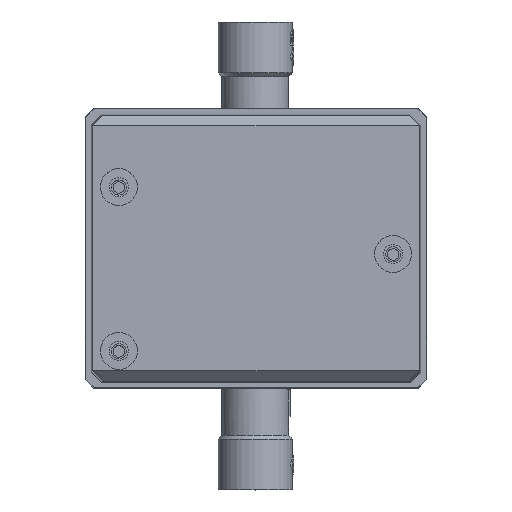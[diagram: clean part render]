
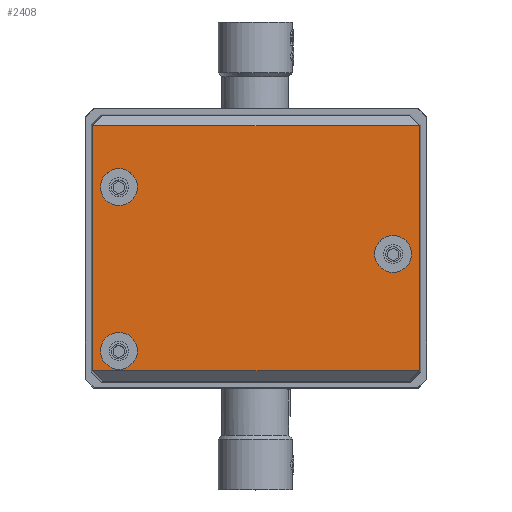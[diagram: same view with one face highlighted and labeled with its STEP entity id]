
A CAD part, top view. The second image highlights one B-rep face of the part: STEP entity #2408.
In plain terms, the highlighted planar face has unit normal (0, 0, 1).
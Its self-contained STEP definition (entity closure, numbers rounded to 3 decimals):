
#1491=FACE_BOUND('',#4747,.T.);
#1492=FACE_BOUND('',#4748,.T.);
#1493=FACE_BOUND('',#4749,.T.);
#1494=FACE_BOUND('',#4750,.T.);
#1710=CIRCLE('',#17207,5.5);
#1714=CIRCLE('',#17214,5.5);
#1718=CIRCLE('',#17221,5.5);
#2408=ADVANCED_FACE('',(#1491,#1492,#1493,#1494),#3371,.T.);
#3371=PLANE('',#17255);
#4747=EDGE_LOOP('',(#5979));
#4748=EDGE_LOOP('',(#5980));
#4749=EDGE_LOOP('',(#5981));
#4750=EDGE_LOOP('',(#5982,#5983,#5984,#5985,#5986,#5987,#5988,#5989));
#5979=ORIENTED_EDGE('',*,*,#12529,.T.);
#5980=ORIENTED_EDGE('',*,*,#12533,.T.);
#5981=ORIENTED_EDGE('',*,*,#12537,.T.);
#5982=ORIENTED_EDGE('',*,*,#12598,.F.);
#5983=ORIENTED_EDGE('',*,*,#12522,.T.);
#5984=ORIENTED_EDGE('',*,*,#12517,.T.);
#5985=ORIENTED_EDGE('',*,*,#12525,.T.);
#5986=ORIENTED_EDGE('',*,*,#12597,.F.);
#5987=ORIENTED_EDGE('',*,*,#12514,.T.);
#5988=ORIENTED_EDGE('',*,*,#12511,.T.);
#5989=ORIENTED_EDGE('',*,*,#12508,.T.);
#10841=VERTEX_POINT('',#23156);
#10845=VERTEX_POINT('',#23163);
#10846=VERTEX_POINT('',#23167);
#10850=VERTEX_POINT('',#23177);
#10852=VERTEX_POINT('',#23182);
#10853=VERTEX_POINT('',#23184);
#10857=VERTEX_POINT('',#23194);
#10858=VERTEX_POINT('',#23198);
#10862=VERTEX_POINT('',#23208);
#10866=VERTEX_POINT('',#23219);
#10870=VERTEX_POINT('',#23230);
#12508=EDGE_CURVE('',#10841,#10845,#15017,.T.);
#12511=EDGE_CURVE('',#10846,#10841,#15020,.T.);
#12514=EDGE_CURVE('',#10850,#10846,#15023,.T.);
#12517=EDGE_CURVE('',#10853,#10852,#15026,.T.);
#12522=EDGE_CURVE('',#10857,#10853,#15031,.T.);
#12525=EDGE_CURVE('',#10852,#10858,#15034,.T.);
#12529=EDGE_CURVE('',#10862,#10862,#1710,.T.);
#12533=EDGE_CURVE('',#10866,#10866,#1714,.T.);
#12537=EDGE_CURVE('',#10870,#10870,#1718,.T.);
#12597=EDGE_CURVE('',#10850,#10858,#15088,.T.);
#12598=EDGE_CURVE('',#10857,#10845,#15089,.T.);
#15017=LINE('',#23164,#16053);
#15020=LINE('',#23170,#16056);
#15023=LINE('',#23176,#16059);
#15026=LINE('',#23183,#16062);
#15031=LINE('',#23193,#16067);
#15034=LINE('',#23200,#16070);
#15088=LINE('',#23348,#16124);
#15089=LINE('',#23350,#16125);
#16053=VECTOR('',#18812,1.);
#16056=VECTOR('',#18817,1.);
#16059=VECTOR('',#18822,1.);
#16062=VECTOR('',#18827,1.);
#16067=VECTOR('',#18834,1.);
#16070=VECTOR('',#18839,1.);
#16124=VECTOR('',#18991,1.);
#16125=VECTOR('',#18994,1.);
#17207=AXIS2_PLACEMENT_3D('',#23207,#18846,#18847);
#17214=AXIS2_PLACEMENT_3D('',#23218,#18860,#18861);
#17221=AXIS2_PLACEMENT_3D('',#23229,#18874,#18875);
#17255=AXIS2_PLACEMENT_3D('',#23351,#18995,#18996);
#18812=DIRECTION('',(-0.707,-0.707,0.));
#18817=DIRECTION('',(-1.,0.,0.));
#18822=DIRECTION('',(-0.707,0.707,0.));
#18827=DIRECTION('',(1.,0.,0.));
#18834=DIRECTION('',(0.707,-0.707,0.));
#18839=DIRECTION('',(0.707,0.707,0.));
#18846=DIRECTION('',(0.,0.,-1.));
#18847=DIRECTION('',(1.,0.,0.));
#18860=DIRECTION('',(0.,0.,-1.));
#18861=DIRECTION('',(1.,0.,0.));
#18874=DIRECTION('',(0.,0.,-1.));
#18875=DIRECTION('',(1.,0.,0.));
#18991=DIRECTION('',(0.,-1.,0.));
#18994=DIRECTION('',(0.,1.,0.));
#18995=DIRECTION('',(0.,0.,1.));
#18996=DIRECTION('',(-1.,0.,0.));
#23156=CARTESIAN_POINT('',(-48.894,38.396,210.));
#23163=CARTESIAN_POINT('',(-48.896,38.394,210.));
#23164=CARTESIAN_POINT('',(-42.77,44.52,210.));
#23167=CARTESIAN_POINT('',(48.894,38.396,210.));
#23170=CARTESIAN_POINT('',(0.,38.396,210.));
#23176=CARTESIAN_POINT('',(42.77,44.52,210.));
#23177=CARTESIAN_POINT('',(48.896,38.394,210.));
#23182=CARTESIAN_POINT('',(48.894,-34.896,210.));
#23183=CARTESIAN_POINT('',(0.,-34.896,210.));
#23184=CARTESIAN_POINT('',(-48.894,-34.896,210.));
#23193=CARTESIAN_POINT('',(-42.77,-41.02,210.));
#23194=CARTESIAN_POINT('',(-48.896,-34.894,210.));
#23198=CARTESIAN_POINT('',(48.896,-34.894,210.));
#23200=CARTESIAN_POINT('',(42.77,-41.02,210.));
#23207=CARTESIAN_POINT('',(41.,0.,210.));
#23208=CARTESIAN_POINT('',(46.5,0.,210.));
#23218=CARTESIAN_POINT('',(-41.,20.,210.));
#23219=CARTESIAN_POINT('',(-35.5,20.,210.));
#23229=CARTESIAN_POINT('',(-41.,-29.,210.));
#23230=CARTESIAN_POINT('',(-35.5,-29.,210.));
#23348=CARTESIAN_POINT('',(48.896,41.85,210.));
#23350=CARTESIAN_POINT('',(-48.896,41.85,210.));
#23351=CARTESIAN_POINT('',(0.,1.75,210.));
